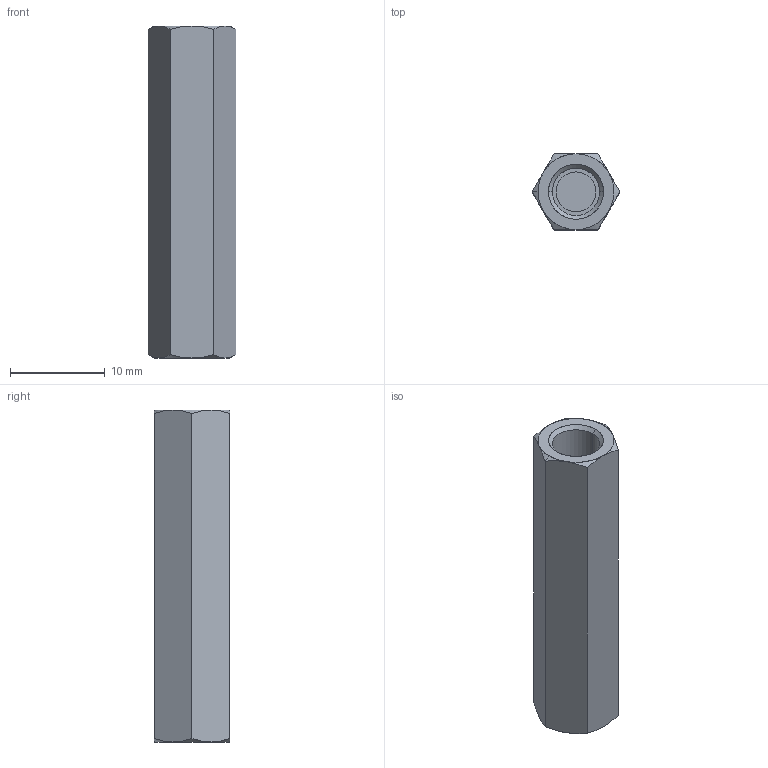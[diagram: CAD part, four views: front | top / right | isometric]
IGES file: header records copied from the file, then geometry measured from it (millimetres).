
Start section: SolidWorks IGES file using analytic representation for surfaces
Global section: file name: C:\Users\ianosborn\Desktop\N0503.NP_v2\N0503.NP_v2_20250227_IGES\N0503.050-035-NP.igs; native system: SolidWorks 2019; preprocessor: SolidWorks 2019; author: IanOsborn; date: 250227.144503; units: millimetre
Bounding box: 9.24 x 8 x 35 mm (x, y, z)
Surface area: 1416.6 mm2 (no closed solid volume)
Topology: 0 solids, 0 shells, 39 faces, 478 edges, 476 vertices
Faces by surface type: revolution 28, bspline 11
